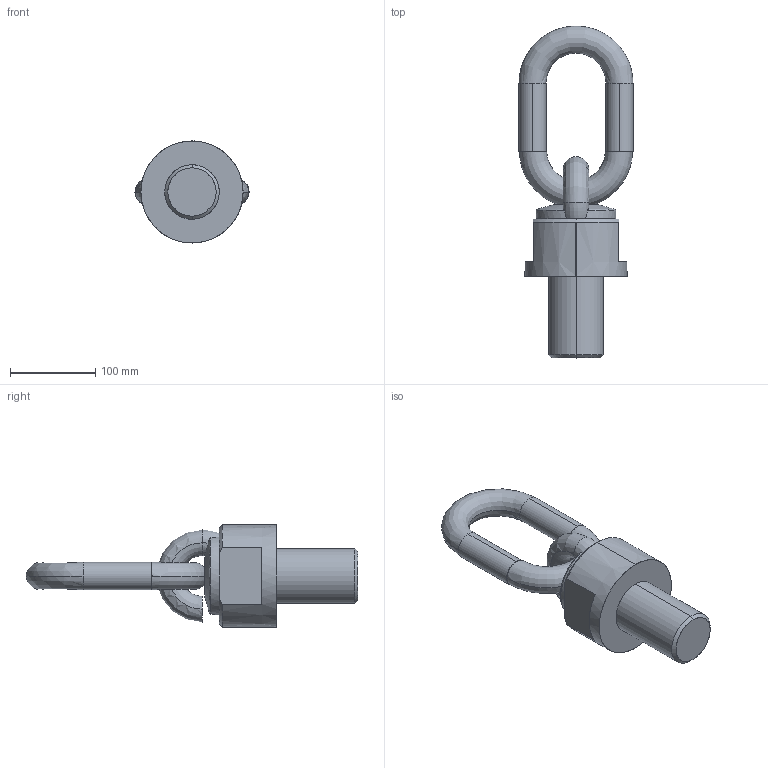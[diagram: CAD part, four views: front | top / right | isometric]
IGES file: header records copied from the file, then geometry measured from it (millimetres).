
Start section: START RECORD GO HERE.
Global section: file name: C800X2006496.igs; native system: DASSAULT SYSTEMES CATIA V5 R20 - www.3ds.com; preprocessor: CATIA Version 5 Release 20 ; author: Utente; organization: NB04-ASUS; date: 20200412.221153; units: millimetre
Bounding box: 134 x 390 x 120 mm (x, y, z)
Surface area: 126110.4 mm2 (no closed solid volume)
Topology: 0 solids, 0 shells, 42 faces, 228 edges, 228 vertices
Faces by surface type: revolution 30, extrusion 12
